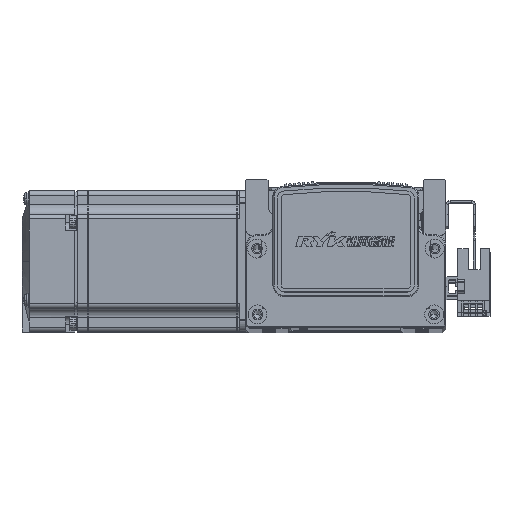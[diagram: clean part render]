
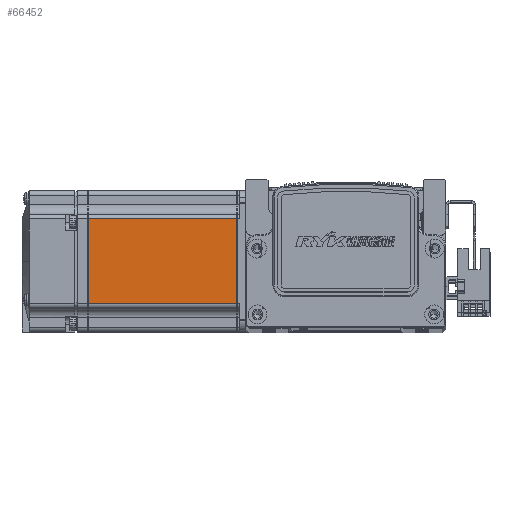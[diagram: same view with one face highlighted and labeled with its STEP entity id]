
A CAD part, top view. The second image highlights one B-rep face of the part: STEP entity #66452.
In plain terms, the highlighted planar face has unit normal (0, 0, 1) as drawn and (0, 0, -1) by its records, which use the part's own axes.
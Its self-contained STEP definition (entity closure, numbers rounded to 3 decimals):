
#36403 = CARTESIAN_POINT ( 'NONE',  ( -6.5, 25., -30. ) ) ;
#36416 = PLANE ( 'NONE',  #43237 ) ;
#36419 = DIRECTION ( 'NONE',  ( -1., 0., 0. ) ) ;
#36433 = DIRECTION ( 'NONE',  ( 0., 0., -1. ) ) ;
#39032 = VERTEX_POINT ( 'NONE', #78970 ) ;
#39053 = VERTEX_POINT ( 'NONE', #78948 ) ;
#39126 = VERTEX_POINT ( 'NONE', #79024 ) ;
#39149 = VERTEX_POINT ( 'NONE', #79045 ) ;
#43237 = AXIS2_PLACEMENT_3D ( 'NONE', #36403, #36433, #36419 ) ;
#50542 = ORIENTED_EDGE ( 'NONE', *, *, #71158, .T. ) ;
#50548 = ORIENTED_EDGE ( 'NONE', *, *, #71162, .T. ) ;
#50554 = ORIENTED_EDGE ( 'NONE', *, *, #71199, .T. ) ;
#50578 = ORIENTED_EDGE ( 'NONE', *, *, #71100, .T. ) ;
#51631 = VECTOR ( 'NONE', #68752, 1000. ) ;
#51643 = LINE ( 'NONE', #68757, #51673 ) ;
#51664 = LINE ( 'NONE', #68694, #51684 ) ;
#51673 = VECTOR ( 'NONE', #68781, 1000. ) ;
#51684 = VECTOR ( 'NONE', #68695, 1000. ) ;
#51691 = LINE ( 'NONE', #68776, #51631 ) ;
#51739 = VECTOR ( 'NONE', #68795, 1000. ) ;
#51748 = LINE ( 'NONE', #68797, #51739 ) ;
#66452 = ADVANCED_FACE ( 'NONE', ( #75827 ), #36416, .T. ) ;
#67966 = EDGE_LOOP ( 'NONE', ( #50554, #50548, #50542, #50578 ) ) ;
#68694 = CARTESIAN_POINT ( 'NONE',  ( -6.5, 18., -30. ) ) ;
#68695 = DIRECTION ( 'NONE',  ( 1., 0., 0. ) ) ;
#68752 = DIRECTION ( 'NONE',  ( 0., 1., 0. ) ) ;
#68757 = CARTESIAN_POINT ( 'NONE',  ( -6.5, -18., -30. ) ) ;
#68776 = CARTESIAN_POINT ( 'NONE',  ( -70.95, 25., -30. ) ) ;
#68781 = DIRECTION ( 'NONE',  ( -1., 0., 0. ) ) ;
#68795 = DIRECTION ( 'NONE',  ( 0., -1., 0. ) ) ;
#68797 = CARTESIAN_POINT ( 'NONE',  ( -7.75, 25., -30. ) ) ;
#71100 = EDGE_CURVE ( 'NONE', #39053, #39032, #51664, .T. ) ;
#71158 = EDGE_CURVE ( 'NONE', #39149, #39053, #51691, .T. ) ;
#71162 = EDGE_CURVE ( 'NONE', #39126, #39149, #51643, .T. ) ;
#71199 = EDGE_CURVE ( 'NONE', #39032, #39126, #51748, .T. ) ;
#75827 = FACE_OUTER_BOUND ( 'NONE', #67966, .T. ) ;
#78948 = CARTESIAN_POINT ( 'NONE',  ( -70.95, 18., -30. ) ) ;
#78970 = CARTESIAN_POINT ( 'NONE',  ( -7.75, 18., -30. ) ) ;
#79024 = CARTESIAN_POINT ( 'NONE',  ( -7.75, -18., -30. ) ) ;
#79045 = CARTESIAN_POINT ( 'NONE',  ( -70.95, -18., -30. ) ) ;
